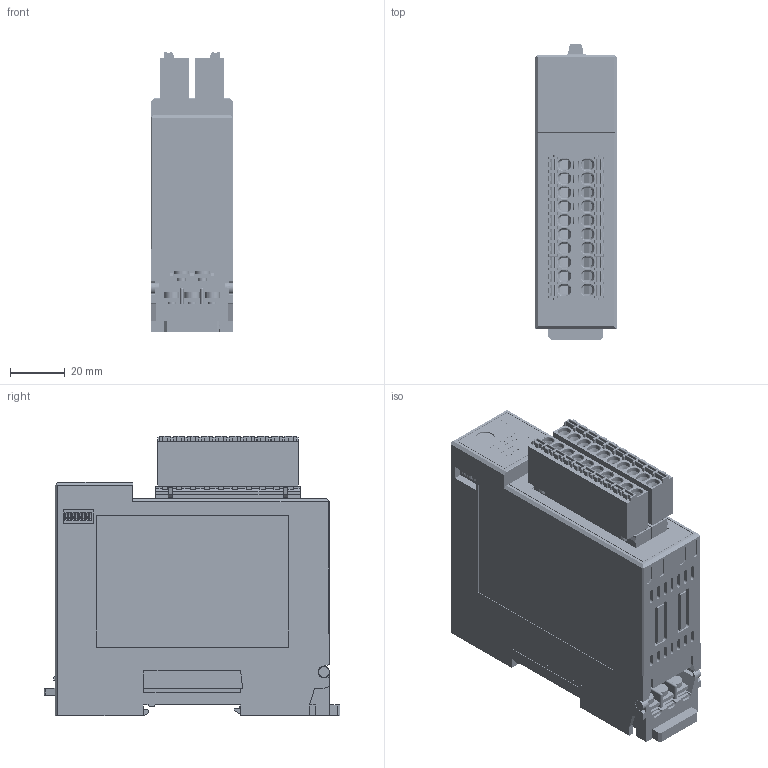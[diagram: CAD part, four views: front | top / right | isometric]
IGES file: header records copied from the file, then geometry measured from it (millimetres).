
Start section: SolidWorks IGES file using analytic representation for surfaces
Global section: file name: 5HD:\KK\CAD_DATA\Q\Q僔儕乕僘\QPM1\D24-019\HP_3D\QPM1-PI16仩PC丒CC\AS_QPM1-PI16仩PC丒CC_260616.IGS; native system: SolidWorks 2025; preprocessor: SolidWorks 2025; author: kawahara; date: 260616.161855; units: millimetre
Bounding box: 29.8 x 107.85 x 102 mm (x, y, z)
Surface area: 53750.3 mm2 (no closed solid volume)
Topology: 0 solids, 0 shells, 4161 faces, 31780 edges, 31740 vertices
Faces by surface type: bspline 2845, revolution 1316
